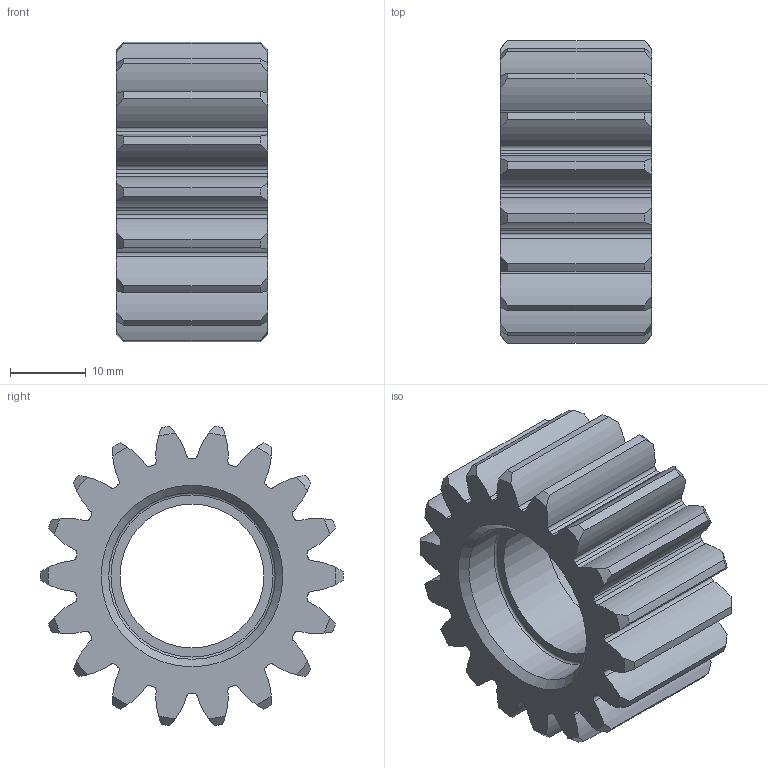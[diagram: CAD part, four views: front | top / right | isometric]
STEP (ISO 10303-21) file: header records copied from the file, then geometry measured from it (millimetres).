
FILE_DESCRIPTION(/* description */ (''),/* implementation_level */ '2;1');
FILE_NAME(/* name */ '',/* time_stamp */ '2026-04-27T11:24:25+09:00',/* author */ ('jhkim'),/* organization */ (''),/* preprocessor_version */ 'ST-DEVELOPER v20.1',/* originating_system */ 'Autodesk Inventor 2027',/* authorisation */ '');
FILE_SCHEMA (('AUTOMOTIVE_DESIGN { 1 0 10303 214 3 1 1 }'));
Length unit declared in the file: millimetre
Products named in the file (1): 유성 기어
Bounding box: 20 x 40 x 39.57 mm (x, y, z)
Volume: 13205.2 mm3; surface area: 6916.7 mm2
Topology: 1 solids, 1 shells, 155 faces, 453 edges, 302 vertices
Faces by surface type: cylinder 111, cone 38, plane 4, torus 2
Full cylindrical faces by diameter (mm): 19 x1, 22 x2
Entity records: 5414 total; most frequent: CARTESIAN_POINT 1127, DIRECTION 961, ORIENTED_EDGE 906, EDGE_CURVE 453, AXIS2_PLACEMENT_3D 424, VERTEX_POINT 302, CIRCLE 268, EDGE_LOOP 159
